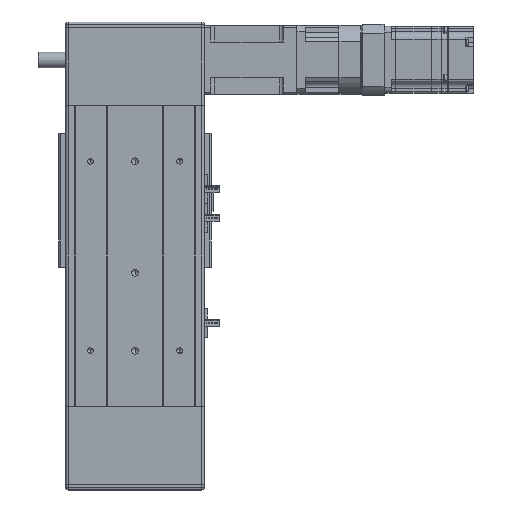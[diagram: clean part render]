
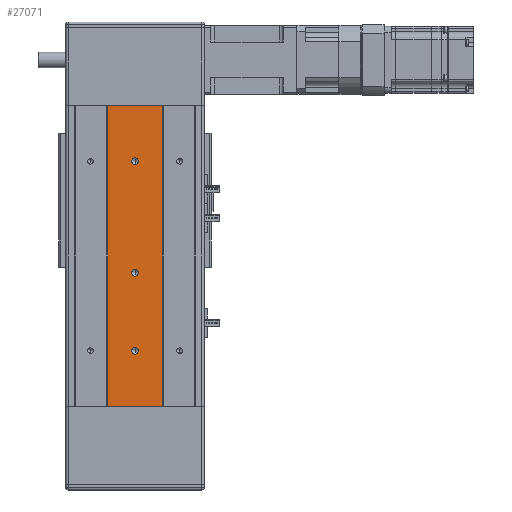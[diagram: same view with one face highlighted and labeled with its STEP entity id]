
A CAD part, front view. The second image highlights one B-rep face of the part: STEP entity #27071.
In plain terms, the highlighted planar face has unit normal (0, -1, 0).
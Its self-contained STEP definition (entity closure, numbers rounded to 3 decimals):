
#6471 = DIRECTION ( 'NONE',  ( 0., 0., -1. ) ) ;
#6473 = CARTESIAN_POINT ( 'NONE',  ( 24.5, -42., 135. ) ) ;
#6480 = CARTESIAN_POINT ( 'NONE',  ( -24.5, -42., 135. ) ) ;
#6487 = DIRECTION ( 'NONE',  ( 0., 0., 1. ) ) ;
#6491 = DIRECTION ( 'NONE',  ( 0., 0., -1. ) ) ;
#6497 = DIRECTION ( 'NONE',  ( 0., 1., 0. ) ) ;
#6502 = CARTESIAN_POINT ( 'NONE',  ( 0., -42., -15. ) ) ;
#6506 = DIRECTION ( 'NONE',  ( 1., 0., 0. ) ) ;
#6540 = CARTESIAN_POINT ( 'NONE',  ( 0., -42., -135. ) ) ;
#6561 = CARTESIAN_POINT ( 'NONE',  ( 0., -42., 85. ) ) ;
#6565 = DIRECTION ( 'NONE',  ( 0., 0., 1. ) ) ;
#6572 = CARTESIAN_POINT ( 'NONE',  ( 0., -42., -85. ) ) ;
#6575 = DIRECTION ( 'NONE',  ( 0., 1., 0. ) ) ;
#6581 = DIRECTION ( 'NONE',  ( 0., 1., 0. ) ) ;
#6585 = DIRECTION ( 'NONE',  ( 0., 0., 1. ) ) ;
#6703 = CARTESIAN_POINT ( 'NONE',  ( 0., -42., 135. ) ) ;
#6714 = DIRECTION ( 'NONE',  ( 1., 0., 0. ) ) ;
#11701 = CARTESIAN_POINT ( 'NONE',  ( 0., -42., -85. ) ) ;
#11702 = DIRECTION ( 'NONE',  ( 0., 1., 0. ) ) ;
#11703 = DIRECTION ( 'NONE',  ( 0., 0., 1. ) ) ;
#13368 = ORIENTED_EDGE ( 'NONE', *, *, #32109, .T. ) ;
#13381 = ORIENTED_EDGE ( 'NONE', *, *, #32036, .T. ) ;
#13386 = ORIENTED_EDGE ( 'NONE', *, *, #34526, .T. ) ;
#13388 = ORIENTED_EDGE ( 'NONE', *, *, #32275, .F. ) ;
#13389 = ORIENTED_EDGE ( 'NONE', *, *, #32060, .F. ) ;
#13390 = ORIENTED_EDGE ( 'NONE', *, *, #32055, .T. ) ;
#13392 = ORIENTED_EDGE ( 'NONE', *, *, #32115, .T. ) ;
#13399 = ORIENTED_EDGE ( 'NONE', *, *, #32100, .T. ) ;
#13407 = ORIENTED_EDGE ( 'NONE', *, *, #34371, .T. ) ;
#13426 = ORIENTED_EDGE ( 'NONE', *, *, #31665, .T. ) ;
#14357 = CIRCLE ( 'NONE', #29126, 3. ) ;
#14397 = CIRCLE ( 'NONE', #29099, 3. ) ;
#22049 = VECTOR ( 'NONE', #6471, 1000. ) ;
#22055 = LINE ( 'NONE', #6480, #22069 ) ;
#22069 = VECTOR ( 'NONE', #6491, 1000. ) ;
#22078 = LINE ( 'NONE', #6473, #22049 ) ;
#22089 = CIRCLE ( 'NONE', #30333, 3. ) ;
#22118 = CIRCLE ( 'NONE', #30329, 3. ) ;
#22129 = LINE ( 'NONE', #6540, #22157 ) ;
#22157 = VECTOR ( 'NONE', #6506, 1000. ) ;
#22166 = CIRCLE ( 'NONE', #30338, 3. ) ;
#22236 = VECTOR ( 'NONE', #6714, 1000. ) ;
#22255 = LINE ( 'NONE', #6703, #22236 ) ;
#24000 = CARTESIAN_POINT ( 'NONE',  ( 24.5, -42., 135. ) ) ;
#24190 = CARTESIAN_POINT ( 'NONE',  ( 24.5, -42., -135. ) ) ;
#24315 = CARTESIAN_POINT ( 'NONE',  ( -24.5, -42., -135. ) ) ;
#24357 = CARTESIAN_POINT ( 'NONE',  ( -24.5, -42., 135. ) ) ;
#27071 = ADVANCED_FACE ( 'NONE', ( #34880, #34902, #34848, #34867 ), #53245, .F. ) ;
#29099 = AXIS2_PLACEMENT_3D ( 'NONE', #59709, #59747, #59749 ) ;
#29126 = AXIS2_PLACEMENT_3D ( 'NONE', #41159, #41414, #35298 ) ;
#29963 = AXIS2_PLACEMENT_3D ( 'NONE', #53254, #53266, #53257 ) ;
#30276 = AXIS2_PLACEMENT_3D ( 'NONE', #11701, #11702, #11703 ) ;
#30329 = AXIS2_PLACEMENT_3D ( 'NONE', #6572, #6575, #6585 ) ;
#30333 = AXIS2_PLACEMENT_3D ( 'NONE', #6502, #6497, #6487 ) ;
#30338 = AXIS2_PLACEMENT_3D ( 'NONE', #6561, #6581, #6565 ) ;
#31665 = EDGE_CURVE ( 'NONE', #34645, #34563, #34672, .T. ) ;
#31827 = VERTEX_POINT ( 'NONE', #24000 ) ;
#31924 = VERTEX_POINT ( 'NONE', #24190 ) ;
#31951 = VERTEX_POINT ( 'NONE', #24315 ) ;
#31952 = VERTEX_POINT ( 'NONE', #24357 ) ;
#32036 = EDGE_CURVE ( 'NONE', #31952, #31951, #22055, .T. ) ;
#32055 = EDGE_CURVE ( 'NONE', #34639, #34579, #22089, .T. ) ;
#32060 = EDGE_CURVE ( 'NONE', #31827, #31924, #22078, .T. ) ;
#32100 = EDGE_CURVE ( 'NONE', #31951, #31924, #22129, .T. ) ;
#32109 = EDGE_CURVE ( 'NONE', #34563, #34645, #22118, .T. ) ;
#32115 = EDGE_CURVE ( 'NONE', #34396, #34549, #22166, .T. ) ;
#32275 = EDGE_CURVE ( 'NONE', #31952, #31827, #22255, .T. ) ;
#34371 = EDGE_CURVE ( 'NONE', #34579, #34639, #14357, .T. ) ;
#34396 = VERTEX_POINT ( 'NONE', #60566 ) ;
#34526 = EDGE_CURVE ( 'NONE', #34549, #34396, #14397, .T. ) ;
#34549 = VERTEX_POINT ( 'NONE', #59727 ) ;
#34563 = VERTEX_POINT ( 'NONE', #59714 ) ;
#34579 = VERTEX_POINT ( 'NONE', #59760 ) ;
#34639 = VERTEX_POINT ( 'NONE', #59785 ) ;
#34645 = VERTEX_POINT ( 'NONE', #59818 ) ;
#34672 = CIRCLE ( 'NONE', #30276, 3. ) ;
#34848 = FACE_BOUND ( 'NONE', #47619, .T. ) ;
#34867 = FACE_OUTER_BOUND ( 'NONE', #47644, .T. ) ;
#34880 = FACE_BOUND ( 'NONE', #47586, .T. ) ;
#34902 = FACE_BOUND ( 'NONE', #47648, .T. ) ;
#35298 = DIRECTION ( 'NONE',  ( 0., 0., 1. ) ) ;
#41159 = CARTESIAN_POINT ( 'NONE',  ( 0., -42., -15. ) ) ;
#41414 = DIRECTION ( 'NONE',  ( 0., 1., 0. ) ) ;
#47586 = EDGE_LOOP ( 'NONE', ( #13386, #13392 ) ) ;
#47619 = EDGE_LOOP ( 'NONE', ( #13426, #13368 ) ) ;
#47644 = EDGE_LOOP ( 'NONE', ( #13399, #13389, #13388, #13381 ) ) ;
#47648 = EDGE_LOOP ( 'NONE', ( #13407, #13390 ) ) ;
#53245 = PLANE ( 'NONE',  #29963 ) ;
#53254 = CARTESIAN_POINT ( 'NONE',  ( 0., -42., 135. ) ) ;
#53257 = DIRECTION ( 'NONE',  ( 0., 0., 1. ) ) ;
#53266 = DIRECTION ( 'NONE',  ( 0., 1., 0. ) ) ;
#59709 = CARTESIAN_POINT ( 'NONE',  ( 0., -42., 85. ) ) ;
#59714 = CARTESIAN_POINT ( 'NONE',  ( 0., -42., -82. ) ) ;
#59727 = CARTESIAN_POINT ( 'NONE',  ( 0., -42., 82. ) ) ;
#59747 = DIRECTION ( 'NONE',  ( 0., 1., 0. ) ) ;
#59749 = DIRECTION ( 'NONE',  ( 0., 0., 1. ) ) ;
#59760 = CARTESIAN_POINT ( 'NONE',  ( 0., -42., -18. ) ) ;
#59785 = CARTESIAN_POINT ( 'NONE',  ( 0., -42., -12. ) ) ;
#59818 = CARTESIAN_POINT ( 'NONE',  ( 0., -42., -88. ) ) ;
#60566 = CARTESIAN_POINT ( 'NONE',  ( 0., -42., 88. ) ) ;
